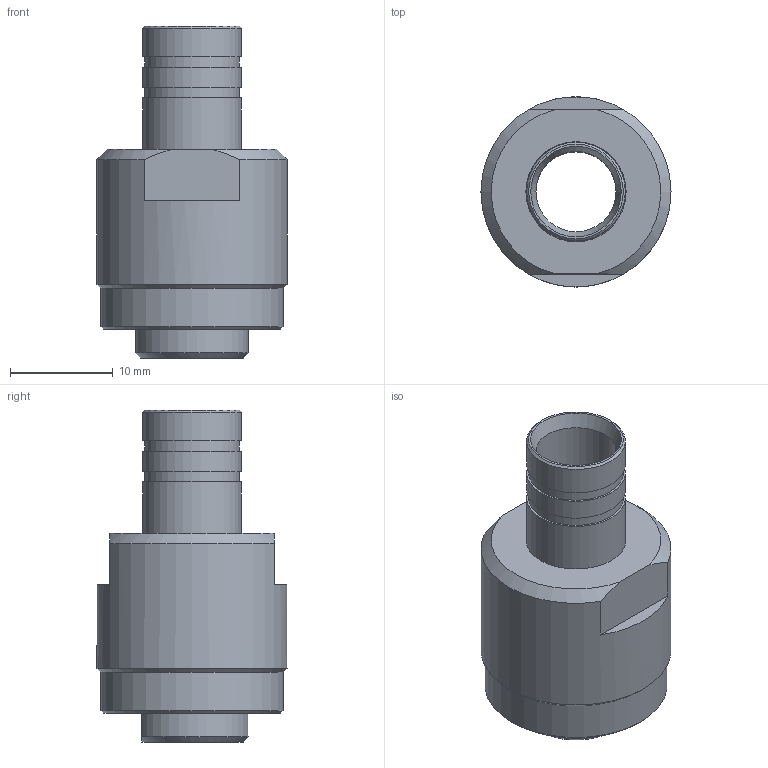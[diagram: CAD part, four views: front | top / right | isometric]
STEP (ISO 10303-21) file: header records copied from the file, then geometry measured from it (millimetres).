
FILE_DESCRIPTION (( 'STEP AP203' ), '1' );
FILE_NAME ('Termination Kit, Regular.STEP', '2021-06-21T14:03:13', ( '' ), ( '' ), 'SwSTEP 2.0', 'SolidWorks 2020', '' );
FILE_SCHEMA (( 'CONFIG_CONTROL_DESIGN' ));
Length unit declared in the file: millimetre
Products named in the file (3): Termination Kit, Regular; 00089; 00065
Assembly tree (2 placements, depth 2):
  Termination Kit, Regular
    00065
    00089
Bounding box: 18.5 x 18.5 x 32.3 mm (x, y, z)
Volume: 2996.6 mm3; surface area: 4434.7 mm2
Topology: 2 solids, 2 shells, 54 faces, 107 edges, 67 vertices
Faces by surface type: plane 21, cylinder 17, cone 10, torus 3, bspline 3
Full cylindrical faces by diameter (mm): 7.8 x1, 8.24 x1, 9.2 x2, 9.562 x1, 9.6 x3, 9.75 x1, 12 x2, 16 x1, 17.75 x1, 18.5 x1
Entity records: 2791 total; most frequent: CARTESIAN_POINT 1498, DIRECTION 217, ORIENTED_EDGE 160, AXIS2_PLACEMENT_3D 102, EDGE_LOOP 91, EDGE_CURVE 80, FACE_OUTER_BOUND 70, VERTEX_POINT 65
